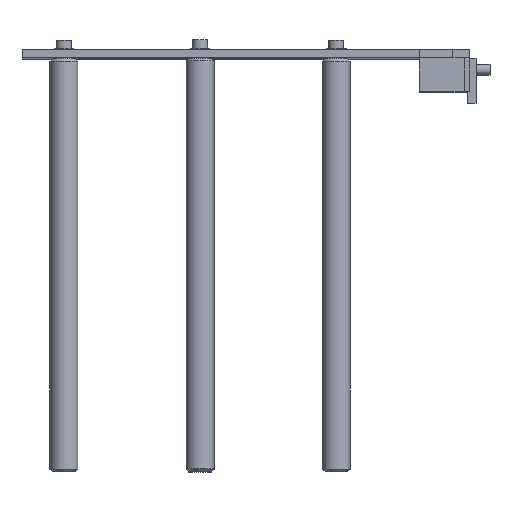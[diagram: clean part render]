
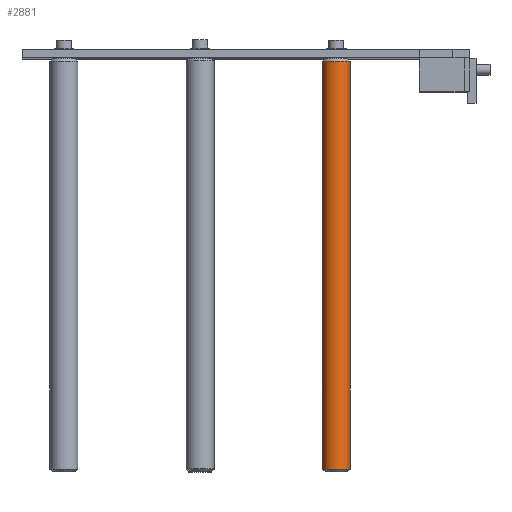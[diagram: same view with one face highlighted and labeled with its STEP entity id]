
A CAD part, top view. The second image highlights one B-rep face of the part: STEP entity #2881.
In plain terms, the highlighted cylindrical face has radius 5 mm (diameter 10 mm), a full revolution.
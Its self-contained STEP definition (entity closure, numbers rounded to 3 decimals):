
#2881 = ADVANCED_FACE('',(#2882),#2896,.T.);
#2882 = FACE_BOUND('',#2883,.T.);
#2883 = EDGE_LOOP('',(#2884,#2914,#2941,#2942));
#2884 = ORIENTED_EDGE('',*,*,#2885,.T.);
#2885 = EDGE_CURVE('',#2886,#2888,#2890,.T.);
#2886 = VERTEX_POINT('',#2887);
#2887 = CARTESIAN_POINT('',(113.48,-145.,5.));
#2888 = VERTEX_POINT('',#2889);
#2889 = CARTESIAN_POINT('',(113.48,1.,5.));
#2890 = SEAM_CURVE('',#2891,(#2895,#2907),.PCURVE_S1.);
#2891 = LINE('',#2892,#2893);
#2892 = CARTESIAN_POINT('',(113.48,-146.,5.));
#2893 = VECTOR('',#2894,1.);
#2894 = DIRECTION('',(0.,1.,0.));
#2895 = PCURVE('',#2896,#2901);
#2896 = CYLINDRICAL_SURFACE('',#2897,5.);
#2897 = AXIS2_PLACEMENT_3D('',#2898,#2899,#2900);
#2898 = CARTESIAN_POINT('',(113.48,-146.,0.));
#2899 = DIRECTION('',(0.,1.,0.));
#2900 = DIRECTION('',(0.,-0.,1.));
#2901 = DEFINITIONAL_REPRESENTATION('',(#2902),#2906);
#2902 = LINE('',#2903,#2904);
#2903 = CARTESIAN_POINT('',(6.283,-0.));
#2904 = VECTOR('',#2905,1.);
#2905 = DIRECTION('',(0.,1.));
#2906 = ( GEOMETRIC_REPRESENTATION_CONTEXT(2) 
PARAMETRIC_REPRESENTATION_CONTEXT() REPRESENTATION_CONTEXT('2D SPACE',''
  ) );
#2907 = PCURVE('',#2896,#2908);
#2908 = DEFINITIONAL_REPRESENTATION('',(#2909),#2913);
#2909 = LINE('',#2910,#2911);
#2910 = CARTESIAN_POINT('',(0.,-0.));
#2911 = VECTOR('',#2912,1.);
#2912 = DIRECTION('',(0.,1.));
#2913 = ( GEOMETRIC_REPRESENTATION_CONTEXT(2) 
PARAMETRIC_REPRESENTATION_CONTEXT() REPRESENTATION_CONTEXT('2D SPACE',''
  ) );
#2914 = ORIENTED_EDGE('',*,*,#2915,.F.);
#2915 = EDGE_CURVE('',#2888,#2888,#2916,.T.);
#2916 = SURFACE_CURVE('',#2917,(#2922,#2929),.PCURVE_S1.);
#2917 = CIRCLE('',#2918,5.);
#2918 = AXIS2_PLACEMENT_3D('',#2919,#2920,#2921);
#2919 = CARTESIAN_POINT('',(113.48,1.,0.));
#2920 = DIRECTION('',(0.,1.,0.));
#2921 = DIRECTION('',(0.,-0.,1.));
#2922 = PCURVE('',#2896,#2923);
#2923 = DEFINITIONAL_REPRESENTATION('',(#2924),#2928);
#2924 = LINE('',#2925,#2926);
#2925 = CARTESIAN_POINT('',(0.,147.));
#2926 = VECTOR('',#2927,1.);
#2927 = DIRECTION('',(1.,0.));
#2928 = ( GEOMETRIC_REPRESENTATION_CONTEXT(2) 
PARAMETRIC_REPRESENTATION_CONTEXT() REPRESENTATION_CONTEXT('2D SPACE',''
  ) );
#2929 = PCURVE('',#2930,#2935);
#2930 = CONICAL_SURFACE('',#2931,5.,0.785);
#2931 = AXIS2_PLACEMENT_3D('',#2932,#2933,#2934);
#2932 = CARTESIAN_POINT('',(113.48,1.,0.));
#2933 = DIRECTION('',(-0.,-1.,-0.));
#2934 = DIRECTION('',(0.,0.,1.));
#2935 = DEFINITIONAL_REPRESENTATION('',(#2936),#2940);
#2936 = LINE('',#2937,#2938);
#2937 = CARTESIAN_POINT('',(-0.,-0.));
#2938 = VECTOR('',#2939,1.);
#2939 = DIRECTION('',(-1.,-0.));
#2940 = ( GEOMETRIC_REPRESENTATION_CONTEXT(2) 
PARAMETRIC_REPRESENTATION_CONTEXT() REPRESENTATION_CONTEXT('2D SPACE',''
  ) );
#2941 = ORIENTED_EDGE('',*,*,#2885,.F.);
#2942 = ORIENTED_EDGE('',*,*,#2943,.T.);
#2943 = EDGE_CURVE('',#2886,#2886,#2944,.T.);
#2944 = SURFACE_CURVE('',#2945,(#2950,#2957),.PCURVE_S1.);
#2945 = CIRCLE('',#2946,5.);
#2946 = AXIS2_PLACEMENT_3D('',#2947,#2948,#2949);
#2947 = CARTESIAN_POINT('',(113.48,-145.,0.));
#2948 = DIRECTION('',(0.,1.,0.));
#2949 = DIRECTION('',(0.,-0.,1.));
#2950 = PCURVE('',#2896,#2951);
#2951 = DEFINITIONAL_REPRESENTATION('',(#2952),#2956);
#2952 = LINE('',#2953,#2954);
#2953 = CARTESIAN_POINT('',(0.,1.));
#2954 = VECTOR('',#2955,1.);
#2955 = DIRECTION('',(1.,0.));
#2956 = ( GEOMETRIC_REPRESENTATION_CONTEXT(2) 
PARAMETRIC_REPRESENTATION_CONTEXT() REPRESENTATION_CONTEXT('2D SPACE',''
  ) );
#2957 = PCURVE('',#2958,#2963);
#2958 = CONICAL_SURFACE('',#2959,5.,0.785);
#2959 = AXIS2_PLACEMENT_3D('',#2960,#2961,#2962);
#2960 = CARTESIAN_POINT('',(113.48,-145.,0.));
#2961 = DIRECTION('',(0.,1.,0.));
#2962 = DIRECTION('',(0.,-0.,1.));
#2963 = DEFINITIONAL_REPRESENTATION('',(#2964),#2968);
#2964 = LINE('',#2965,#2966);
#2965 = CARTESIAN_POINT('',(0.,-0.));
#2966 = VECTOR('',#2967,1.);
#2967 = DIRECTION('',(1.,-0.));
#2968 = ( GEOMETRIC_REPRESENTATION_CONTEXT(2) 
PARAMETRIC_REPRESENTATION_CONTEXT() REPRESENTATION_CONTEXT('2D SPACE',''
  ) );
